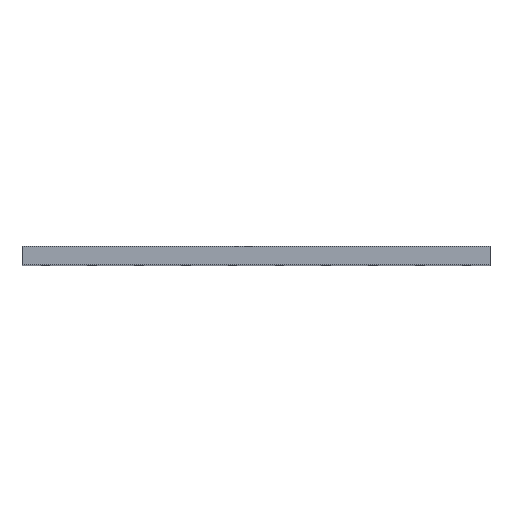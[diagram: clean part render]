
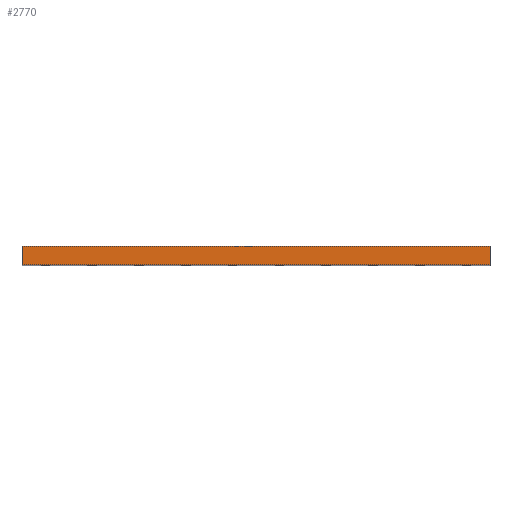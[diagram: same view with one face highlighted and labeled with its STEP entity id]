
A CAD part, top view. The second image highlights one B-rep face of the part: STEP entity #2770.
In plain terms, the highlighted planar face has unit normal (0, 0, 1).
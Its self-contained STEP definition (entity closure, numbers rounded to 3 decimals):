
#248=PLANE('',#3147);
#370=FACE_OUTER_BOUND('',#492,.T.);
#492=EDGE_LOOP('',(#2285,#2286,#2287,#2288));
#848=LINE('',#4695,#976);
#849=LINE('',#4698,#977);
#850=LINE('',#4700,#978);
#851=LINE('',#4701,#979);
#976=VECTOR('',#3971,10.);
#977=VECTOR('',#3974,10.);
#978=VECTOR('',#3975,10.);
#979=VECTOR('',#3976,10.);
#1449=VERTEX_POINT('',#4688);
#1452=VERTEX_POINT('',#4693);
#1453=VERTEX_POINT('',#4697);
#1454=VERTEX_POINT('',#4699);
#1808=EDGE_CURVE('',#1449,#1452,#848,.T.);
#1809=EDGE_CURVE('',#1453,#1449,#849,.T.);
#1810=EDGE_CURVE('',#1454,#1452,#850,.T.);
#1811=EDGE_CURVE('',#1453,#1454,#851,.T.);
#2285=ORIENTED_EDGE('',*,*,#1809,.T.);
#2286=ORIENTED_EDGE('',*,*,#1808,.T.);
#2287=ORIENTED_EDGE('',*,*,#1810,.F.);
#2288=ORIENTED_EDGE('',*,*,#1811,.F.);
#2770=ADVANCED_FACE('',(#370),#248,.T.);
#3147=AXIS2_PLACEMENT_3D('',#4696,#3972,#3973);
#3971=DIRECTION('',(0.,1.,0.));
#3972=DIRECTION('center_axis',(0.,0.,1.));
#3973=DIRECTION('ref_axis',(1.,0.,0.));
#3974=DIRECTION('',(1.,0.,0.));
#3975=DIRECTION('',(1.,0.,0.));
#3976=DIRECTION('',(0.,1.,0.));
#4688=CARTESIAN_POINT('',(0.,0.,0.));
#4693=CARTESIAN_POINT('',(0.,10.,0.));
#4695=CARTESIAN_POINT('',(0.,0.,0.));
#4696=CARTESIAN_POINT('Origin',(-250.,0.,0.));
#4697=CARTESIAN_POINT('',(-250.,0.,0.));
#4698=CARTESIAN_POINT('',(-250.,0.,0.));
#4699=CARTESIAN_POINT('',(-250.,10.,0.));
#4700=CARTESIAN_POINT('',(-250.,10.,0.));
#4701=CARTESIAN_POINT('',(-250.,0.,0.));
